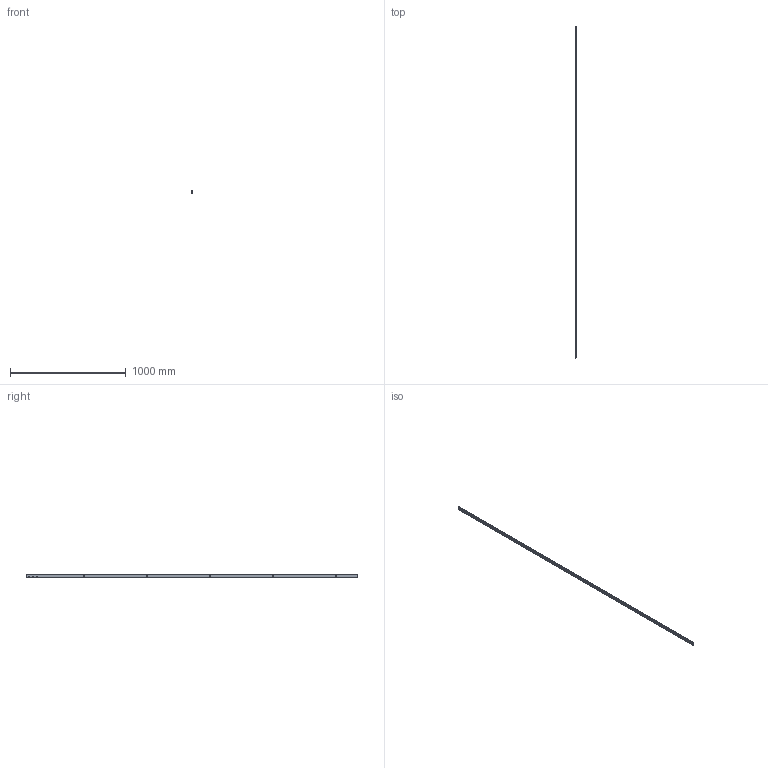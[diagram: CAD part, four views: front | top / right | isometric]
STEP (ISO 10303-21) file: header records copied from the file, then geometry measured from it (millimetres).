
FILE_DESCRIPTION (( 'STEP AP214' ), '1' );
FILE_NAME ('TPL-W-532-U 19July2024.STEP', '2024-12-05T00:27:45', ( '' ), ( '' ), 'SwSTEP 2.0', 'SolidWorks 2023', '' );
FILE_SCHEMA (( 'AUTOMOTIVE_DESIGN' ));
Length unit declared in the file: millimetre
Products named in the file (15): Copy of COV-112-C Cover C TPLGen2 Lock body^TPL-W-002 19July2024; Bolt(2)^TPL-W-002 19July2024; Copy of TPLGen2 lock body non-keyed^Copy of TPLGen2 lock body non-keyed assembly_TPL-W-002 19July2024; Copy of Escutcheon plate unkeyed 185mm - simplified^Copy of TPGen2 handle non-keyed - simplified_TPL-W-002 19July2024; Copy of Adapter CnE - simplfied^TPL-W-002 19July2024_26mm backset; Copy of Copy of Copy of LKC-531 Lock twinpoint transmission rod wood system^TPL-W-002 19July2024_Standard Range 2891.7mm; Copy of COV-112-A Cover A suit TPLGen2 standard range^TPL-W-002 19July2024_1335mm; Copy of LKC-547 Spindle - simplified^Copy of TPGen2 handle non-keyed - simplified_TPL-W-002 19July2024_C - 15mm; Copy of Copy of LKC-531 Lock twinpoint transmission rod wood system^TPL-W-002 19July2024_Standard Range 2891.7mm; Copy (2) of COV-112-B Cover B suit TPLGen2 standard range^TPL-W-002 19July2024_2870mm; Copy of Adapter DnF - simplfied^TPL-W-002 19July2024_26mm backset; Copy of TPLGen2 push rod - simplified^Copy of TPLGen2 lock body non-keyed assembly_TPL-W-002 19July2024_Female thread M10; Copy of Handle sub-assembly - simplified^Copy of TPGen2 handle non-keyed - simplified_TPL-W-002 19July2024; TPL-W-532-U 19July2024
Assembly tree (3 placements, depth 2):
  Copy of COV-112-C Cover C TPLGen2 Lock body^TPL-W-002 19July2024
  Copy of TPLGen2 lock body non-keyed^Copy of TPLGen2 lock body non-keyed assembly_TPL-W-002 19July2024
  Copy of Escutcheon plate unkeyed 185mm - simplified^Copy of TPGen2 handle non-keyed - simplified_TPL-W-002 19July2024
  Copy of Adapter CnE - simplfied^TPL-W-002 19July2024_26mm backset
  Bolt(2)^TPL-W-002 19July2024
Bounding box: 10.8 x 2870 x 27 mm (x, y, z)
Volume: 470246.4 mm3; surface area: 384897.7 mm2
Topology: 3 solids, 3 shells, 134 faces, 406 edges, 268 vertices
Faces by surface type: plane 59, cylinder 51, cone 22, sphere 2
Entity records: 5311 total; most frequent: CARTESIAN_POINT 1388, ORIENTED_EDGE 806, DIRECTION 759, EDGE_CURVE 403, AXIS2_PLACEMENT_3D 276, VERTEX_POINT 267, VECTOR 207, LINE 207
